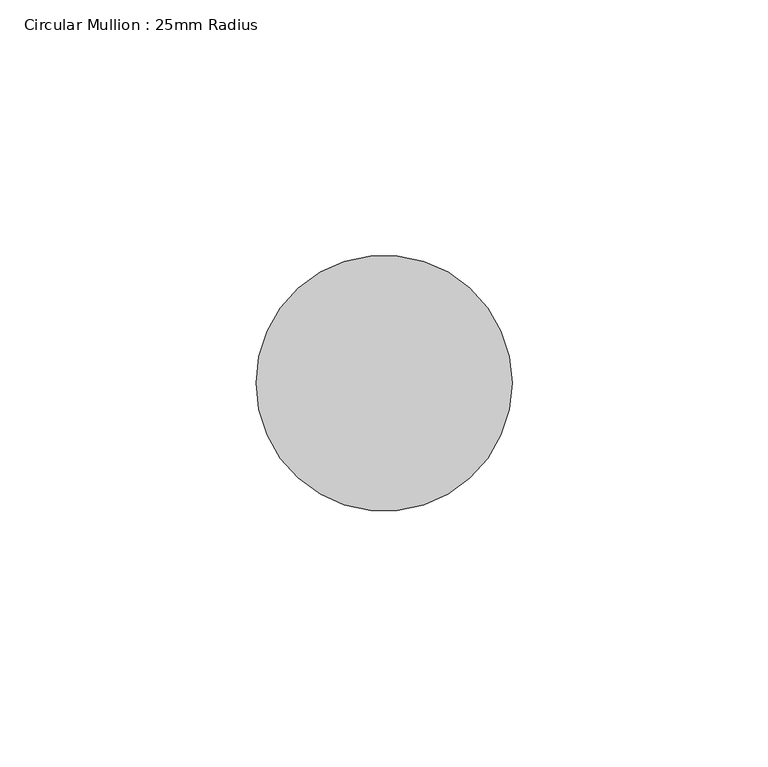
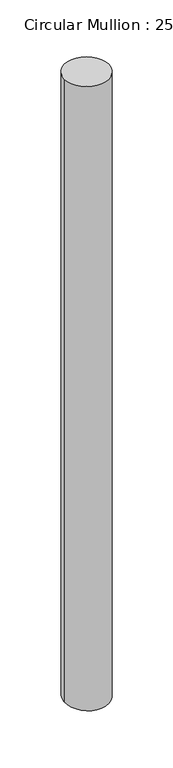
"""IFC4 building model written with IfcOpenShell, lengths in millimetres: member geometry, Circular Mullion : 25mm Radius."""

from ifc_helpers import new_model, si_unit, frame, origin, place, context, project, spatial, circle_curve, ellipse_curve, source, transform, mapped, element, save
from ifc_brep_helpers import plane_surface, cylinder_surface, advanced_brep


def circular_mullion_25mm_radius_4165b87d(model_context):
    return source(origin(), model_context, "Body", "AdvancedBrep", [
        advanced_brep(
        [(0.0, 0.0, 0.0), (-50.0, 0.0, 0.0), (0.0, 0.0, -736.8789016), (-50.0, 0.0, -736.8789016)],
        [
            (0, 1, circle_curve(frame((-25.0, 0.0, 0.0), z_axis=(0.0, 0.0, 1.0), x_axis=(1.0, 0.0, 0.0)), 25.0)),
            (1, 0, circle_curve(frame((-25.0, 0.0, 0.0), z_axis=(0.0, 0.0, 1.0), x_axis=(1.0, 0.0, 0.0)), 25.0)),
            (0, 2),
            (2, 3, ellipse_curve(frame((-25.0, 0.0, -736.8789016), z_axis=(0.0, -0.09349284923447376, 0.9956199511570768), x_axis=(0.0, 0.9956199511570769, 0.09349284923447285)), 25.109983, 25.0)),
            (3, 1),
            (3, 2, ellipse_curve(frame((-25.0, 0.0, -736.8789016), z_axis=(0.0, -0.09349284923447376, 0.9956199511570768), x_axis=(0.0, 0.9956199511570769, 0.09349284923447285)), 25.109983, 25.0)),
        ],
        [
            plane_surface(frame((0.0, -50.0, 0.0), z_axis=(0.0, 0.0, 1.0), x_axis=(-1.0, 0.0, 0.0))),
            cylinder_surface(frame((-25.0, 0.0, 0.0), z_axis=(0.0, 0.0, 1.0), x_axis=(1.0, 0.0, 0.0)), 25.0),
            plane_surface(frame((-304.8, 0.0, -736.8789016), z_axis=(0.0, 0.09349284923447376, -0.9956199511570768), x_axis=(0.0, 0.9956199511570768, 0.09349284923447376))),
        ],
        [
            (0, [[1, 2]]),
            (1, [[-1, 3, 4, 5]]),
            (1, [[-2, -5, 6, -3]]),
            (2, [[-6, -4]]),
        ],
    ),
    ])


if __name__ == "__main__":
    model = new_model("IFC4")
    model_context = context("Model", 3, world=origin())
    ifc_project = project(units=[si_unit("LENGTHUNIT", "METRE", prefix="MILLI")], contexts=[model_context])
    site = spatial("IfcSite", under=ifc_project)
    building = spatial("IfcBuilding", under=site)
    placement = place(None, origin())
    circular_mullion_25mm_radius_shape = circular_mullion_25mm_radius_4165b87d(model_context)
    element("IfcMember", 1, ObjectType="Circular Mullion : 25mm Radius", at=placement, inside=building, context=model_context, shape_type="MappedRepresentation", body=[
        mapped(circular_mullion_25mm_radius_shape, transform((0.0, 0.0, 0.0), x_axis=(1.0, 0.0, 0.0), y_axis=(0.0, 1.0, 0.0), z_axis=(0.0, 0.0, 1.0))),
    ])
    save(model, "model.ifc")
